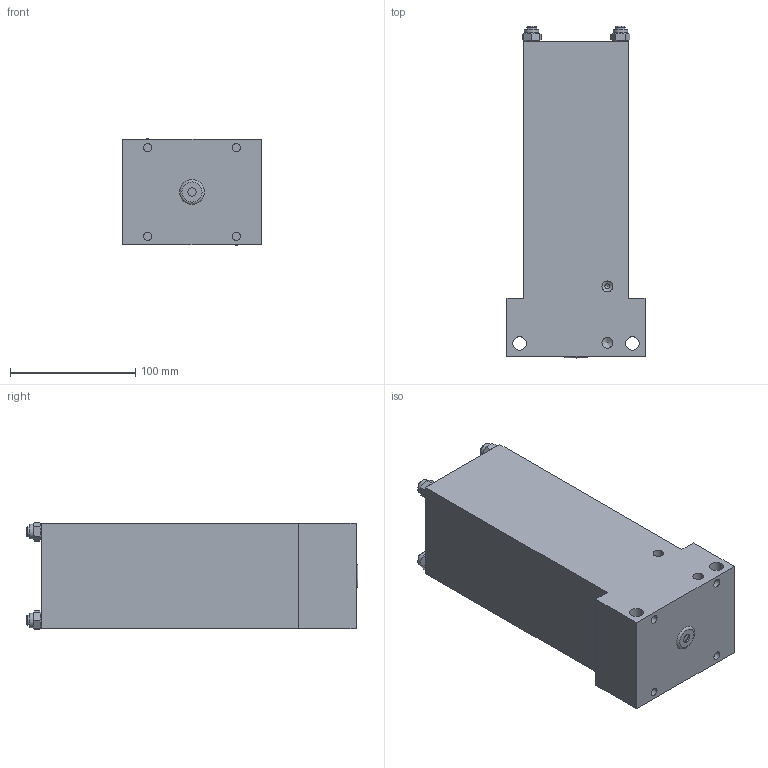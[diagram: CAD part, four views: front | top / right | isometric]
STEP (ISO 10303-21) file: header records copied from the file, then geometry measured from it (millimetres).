
FILE_DESCRIPTION((''),'2;1');
FILE_NAME('C:\VaultWork\Zeichnungen\Maßblätter\Multizylinder\M 75\M75-30\M01798-4-0 Maßblatt Multizylinder M75-6-20 mit zweiter Grundzelle.stp','2013-06-19T16:45:05',('Sergeew'),(''),'Autodesk Inventor 2012','Autodesk Inventor 2012','');
FILE_SCHEMA(('AUTOMOTIVE_DESIGN { 1 0 10303 214 1 1 1 1 }'));
Length unit declared in the file: millimetre
Products named in the file (1): M01798-4-0 Maßblatt Multizylinder M75-6-20 mit zweiter Grundzelle
Bounding box: 110 x 264.5 x 85.72 mm (x, y, z)
Volume: 1852045.7 mm3; surface area: 119142.5 mm2
Topology: 1 solids, 5 shells, 112 faces, 245 edges, 162 vertices
Faces by surface type: plane 61, cylinder 27, cone 23, torus 1
Full cylindrical faces by diameter (mm): 4 x1, 6.647 x5, 8 x8, 8.566 x3, 9 x4, 11 x2, 11.6 x4
Entity records: 2661 total; most frequent: CARTESIAN_POINT 513, DIRECTION 418, ORIENTED_EDGE 336, EDGE_LOOP 186, AXIS2_PLACEMENT_3D 185, EDGE_CURVE 168, VERTEX_POINT 136, FACE_OUTER_BOUND 112
